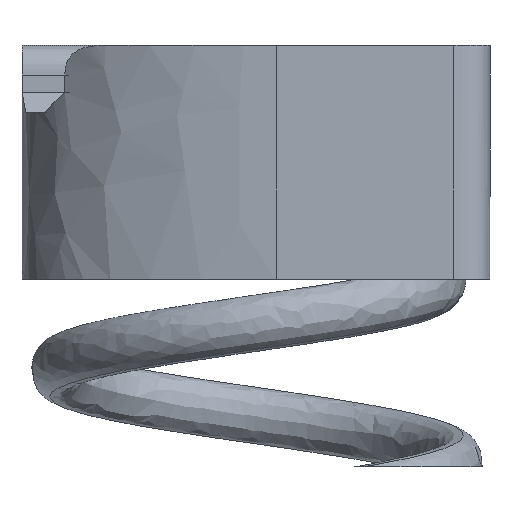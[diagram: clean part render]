
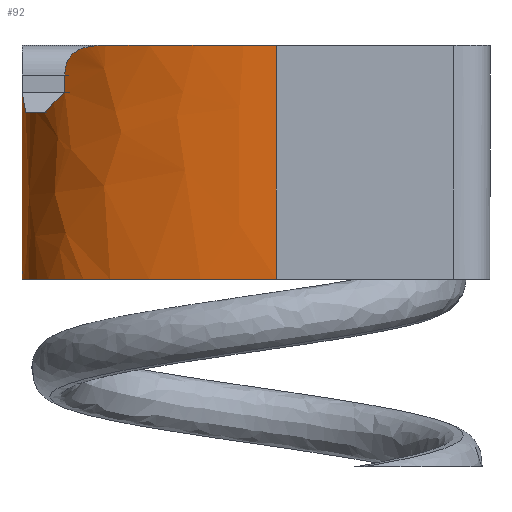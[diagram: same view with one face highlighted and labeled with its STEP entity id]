
A CAD part, left-side view. The second image highlights one B-rep face of the part: STEP entity #92.
In plain terms, the highlighted free-form (B-spline) face has degree [3, 1] with [4, 2] control points.
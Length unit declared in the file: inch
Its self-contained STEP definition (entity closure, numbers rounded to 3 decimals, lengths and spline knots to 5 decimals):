
#92=ADVANCED_FACE('',(#200),#201,.F.);
#200=FACE_OUTER_BOUND('',#1138,.T.);
#201=B_SPLINE_SURFACE_WITH_KNOTS('',3,1,((#1139,#1140),(#1141,#1142),(#1143,#1144),(#1145,#1146)),.UNSPECIFIED.,.F.,.F.,.F.,(4,4),(2,2),(-1.0,-0.0),(0.0,0.67501),.UNSPECIFIED.);
#1138=EDGE_LOOP('',(#1369,#1370,#1371,#1372,#1373,#1374,#1375,#1376,#1377,#1378,#1379));
#1139=CARTESIAN_POINT('',(0.22424,0.625,0.08761));
#1140=CARTESIAN_POINT('',(0.22424,0.625,-0.58741));
#1141=CARTESIAN_POINT('',(0.02389,0.625,0.08761));
#1142=CARTESIAN_POINT('',(0.02389,0.625,-0.58741));
#1143=CARTESIAN_POINT('',(-0.00004,0.33499,0.08761));
#1144=CARTESIAN_POINT('',(-0.00004,0.33499,-0.58741));
#1145=CARTESIAN_POINT('',(-0.00004,0.28116,0.08761));
#1146=CARTESIAN_POINT('',(-0.00004,0.28116,-0.58741));
#1369=ORIENTED_EDGE('',*,*,#1624,.F.);
#1370=ORIENTED_EDGE('',*,*,#1625,.F.);
#1371=ORIENTED_EDGE('',*,*,#1626,.F.);
#1372=ORIENTED_EDGE('',*,*,#1616,.F.);
#1373=ORIENTED_EDGE('',*,*,#1627,.F.);
#1374=ORIENTED_EDGE('',*,*,#1594,.F.);
#1375=ORIENTED_EDGE('',*,*,#1628,.F.);
#1376=ORIENTED_EDGE('',*,*,#1620,.F.);
#1377=ORIENTED_EDGE('',*,*,#1629,.F.);
#1378=ORIENTED_EDGE('',*,*,#1630,.F.);
#1379=ORIENTED_EDGE('',*,*,#1631,.T.);
#1594=EDGE_CURVE('',#1757,#1758,#1759,.T.);
#1616=EDGE_CURVE('',#1793,#1794,#1795,.T.);
#1620=EDGE_CURVE('',#1799,#1800,#1801,.T.);
#1624=EDGE_CURVE('',#1805,#1806,#1807,.T.);
#1625=EDGE_CURVE('',#1808,#1805,#1809,.T.);
#1626=EDGE_CURVE('',#1794,#1808,#1810,.T.);
#1627=EDGE_CURVE('',#1758,#1793,#1811,.T.);
#1628=EDGE_CURVE('',#1800,#1757,#1812,.T.);
#1629=EDGE_CURVE('',#1813,#1799,#1814,.T.);
#1630=EDGE_CURVE('',#1815,#1813,#1816,.T.);
#1631=EDGE_CURVE('',#1815,#1806,#1817,.T.);
#1757=VERTEX_POINT('',#2183);
#1758=VERTEX_POINT('',#2184);
#1759=B_SPLINE_CURVE_WITH_KNOTS('',3,(#2185,#2186,#2187,#2188,#2189,#2190),.UNSPECIFIED.,.F.,.F.,(4,2,4),(0.0,0.09049,0.17822),.UNSPECIFIED.);
#1793=VERTEX_POINT('',#2287);
#1794=VERTEX_POINT('',#2288);
#1795=B_SPLINE_CURVE_WITH_KNOTS('',3,(#2289,#2290,#2291,#2292,#2293,#2294,#2295,#2296,#2297,#2298,#2299,#2300),.UNSPECIFIED.,.F.,.F.,(4,2,2,2,2,4),(0.0,0.01096,0.02244,0.03679,0.05294,0.08142),.UNSPECIFIED.);
#1799=VERTEX_POINT('',#2306);
#1800=VERTEX_POINT('',#2307);
#1801=B_SPLINE_CURVE_WITH_KNOTS('',3,(#2308,#2309,#2310,#2311),.UNSPECIFIED.,.F.,.F.,(4,4),(0.0,0.11034),.UNSPECIFIED.);
#1805=VERTEX_POINT('',#2317);
#1806=VERTEX_POINT('',#2318);
#1807=B_SPLINE_CURVE_WITH_KNOTS('',3,(#2319,#2320,#2321,#2322),.UNSPECIFIED.,.F.,.F.,(4,4),(0.0,1.0),.UNSPECIFIED.);
#1808=VERTEX_POINT('',#2323);
#1809=B_SPLINE_CURVE_WITH_KNOTS('',3,(#2324,#2325,#2326,#2327,#2328,#2329),.UNSPECIFIED.,.F.,.F.,(4,2,4),(0.0,0.33751,0.41231),.UNSPECIFIED.);
#1810=B_SPLINE_CURVE_WITH_KNOTS('',3,(#2330,#2331,#2332,#2333,#2334,#2335,#2336,#2337),.UNSPECIFIED.,.F.,.F.,(4,2,2,4),(0.0,0.07657,0.19462,0.36874),.UNSPECIFIED.);
#1811=B_SPLINE_CURVE_WITH_KNOTS('',3,(#2338,#2339,#2340,#2341),.UNSPECIFIED.,.F.,.F.,(4,4),(0.0,0.12322),.UNSPECIFIED.);
#1812=B_SPLINE_CURVE_WITH_KNOTS('',3,(#2342,#2343,#2344,#2345,#2346,#2347,#2348,#2349),.UNSPECIFIED.,.F.,.F.,(4,2,2,4),(0.0,0.07132,0.12486,0.1779),.UNSPECIFIED.);
#1813=VERTEX_POINT('',#2350);
#1814=B_SPLINE_CURVE_WITH_KNOTS('',3,(#2351,#2352,#2353,#2354),.UNSPECIFIED.,.F.,.F.,(4,4),(0.0,0.12322),.UNSPECIFIED.);
#1815=VERTEX_POINT('',#2355);
#1816=B_SPLINE_CURVE_WITH_KNOTS('',3,(#2356,#2357,#2358,#2359,#2360,#2361,#2362,#2363),.UNSPECIFIED.,.F.,.F.,(4,2,2,4),(0.0,0.01231,0.02266,0.03346),.UNSPECIFIED.);
#1817=LINE('',#2364,#2365);
#2183=CARTESIAN_POINT('',(0.12486,0.59502,-0.09006));
#2184=CARTESIAN_POINT('',(0.09361,0.56782,-0.06266));
#2185=CARTESIAN_POINT('',(0.16245,0.6145,-0.12302));
#2186=CARTESIAN_POINT('',(0.14058,0.60652,-0.10385));
#2187=CARTESIAN_POINT('',(0.12032,0.59387,-0.08608));
#2188=CARTESIAN_POINT('',(0.08408,0.55917,-0.05431));
#2189=CARTESIAN_POINT('',(0.06886,0.53824,-0.04097));
#2190=CARTESIAN_POINT('',(0.05601,0.51454,-0.0297));
#2287=CARTESIAN_POINT('',(0.09361,0.56782,-0.03944));
#2288=CARTESIAN_POINT('',(0.05539,0.51338,0.0));
#2289=CARTESIAN_POINT('',(0.09361,0.56782,-0.03944));
#2290=CARTESIAN_POINT('',(0.09361,0.56782,-0.03579));
#2291=CARTESIAN_POINT('',(0.09324,0.56743,-0.03207));
#2292=CARTESIAN_POINT('',(0.09172,0.56577,-0.02488));
#2293=CARTESIAN_POINT('',(0.09055,0.56448,-0.02145));
#2294=CARTESIAN_POINT('',(0.08708,0.56052,-0.01454));
#2295=CARTESIAN_POINT('',(0.08471,0.55771,-0.01149));
#2296=CARTESIAN_POINT('',(0.07918,0.55073,-0.00635));
#2297=CARTESIAN_POINT('',(0.07604,0.54653,-0.00451));
#2298=CARTESIAN_POINT('',(0.06766,0.53453,-0.00095));
#2299=CARTESIAN_POINT('',(0.06166,0.52506,0.0));
#2300=CARTESIAN_POINT('',(0.05539,0.51338,0.0));
#2306=CARTESIAN_POINT('',(0.21258,0.62467,-0.06266));
#2307=CARTESIAN_POINT('',(0.1809,0.62005,-0.09006));
#2308=CARTESIAN_POINT('',(0.22424,0.625,-0.05258));
#2309=CARTESIAN_POINT('',(0.19642,0.625,-0.07664));
#2310=CARTESIAN_POINT('',(0.16897,0.61941,-0.10038));
#2311=CARTESIAN_POINT('',(0.14308,0.60598,-0.12276));
#2317=CARTESIAN_POINT('',(0.0,0.2853,-0.31231));
#2318=CARTESIAN_POINT('',(0.22424,0.625,-0.31231));
#2319=CARTESIAN_POINT('',(-0.00004,0.28116,-0.31231));
#2320=CARTESIAN_POINT('',(-0.00004,0.33499,-0.31231));
#2321=CARTESIAN_POINT('',(0.02389,0.625,-0.31231));
#2322=CARTESIAN_POINT('',(0.22424,0.625,-0.31231));
#2323=CARTESIAN_POINT('',(0.0,0.2853,0.0));
#2324=CARTESIAN_POINT('',(0.0,0.2853,0.05));
#2325=CARTESIAN_POINT('',(0.0,0.2853,-0.0625));
#2326=CARTESIAN_POINT('',(0.0,0.2853,-0.175));
#2327=CARTESIAN_POINT('',(0.0,0.2853,-0.31244));
#2328=CARTESIAN_POINT('',(0.0,0.2853,-0.33738));
#2329=CARTESIAN_POINT('',(0.0,0.2853,-0.36231));
#2330=CARTESIAN_POINT('',(0.10539,0.5795,0.0));
#2331=CARTESIAN_POINT('',(0.08653,0.5623,0.0));
#2332=CARTESIAN_POINT('',(0.07115,0.54146,0.0));
#2333=CARTESIAN_POINT('',(0.03926,0.48497,0.0));
#2334=CARTESIAN_POINT('',(0.02579,0.44586,0.0));
#2335=CARTESIAN_POINT('',(0.00311,0.35121,0.0));
#2336=CARTESIAN_POINT('',(-0.00004,0.30075,0.0));
#2337=CARTESIAN_POINT('',(-0.00004,0.28116,0.0));
#2338=CARTESIAN_POINT('',(0.09361,0.56782,-0.11266));
#2339=CARTESIAN_POINT('',(0.09361,0.56782,-0.07159));
#2340=CARTESIAN_POINT('',(0.09361,0.56782,-0.03052));
#2341=CARTESIAN_POINT('',(0.09361,0.56782,0.01056));
#2342=CARTESIAN_POINT('',(0.22424,0.625,-0.09006));
#2343=CARTESIAN_POINT('',(0.20047,0.625,-0.09006));
#2344=CARTESIAN_POINT('',(0.17736,0.62092,-0.09006));
#2345=CARTESIAN_POINT('',(0.13896,0.60487,-0.09006));
#2346=CARTESIAN_POINT('',(0.12398,0.59547,-0.09006));
#2347=CARTESIAN_POINT('',(0.09692,0.57246,-0.09006));
#2348=CARTESIAN_POINT('',(0.08515,0.55918,-0.09006));
#2349=CARTESIAN_POINT('',(0.07486,0.54481,-0.09006));
#2350=CARTESIAN_POINT('',(0.21258,0.62467,-0.03944));
#2351=CARTESIAN_POINT('',(0.21258,0.62467,0.01056));
#2352=CARTESIAN_POINT('',(0.21258,0.62467,-0.03052));
#2353=CARTESIAN_POINT('',(0.21258,0.62467,-0.07159));
#2354=CARTESIAN_POINT('',(0.21258,0.62467,-0.11266));
#2355=CARTESIAN_POINT('',(0.22424,0.625,-0.00912));
#2356=CARTESIAN_POINT('',(0.22424,0.625,-0.00912));
#2357=CARTESIAN_POINT('',(0.22123,0.625,-0.0119));
#2358=CARTESIAN_POINT('',(0.21885,0.62494,-0.01522));
#2359=CARTESIAN_POINT('',(0.21552,0.62482,-0.022));
#2360=CARTESIAN_POINT('',(0.21443,0.62477,-0.02531));
#2361=CARTESIAN_POINT('',(0.21296,0.62469,-0.03219));
#2362=CARTESIAN_POINT('',(0.21258,0.62467,-0.03587));
#2363=CARTESIAN_POINT('',(0.21258,0.62467,-0.03944));
#2364=CARTESIAN_POINT('',(0.22424,0.625,0.08761));
#2365=VECTOR('',#2514,1.);
#2514=DIRECTION('',(0.0,0.0,-1.0));
